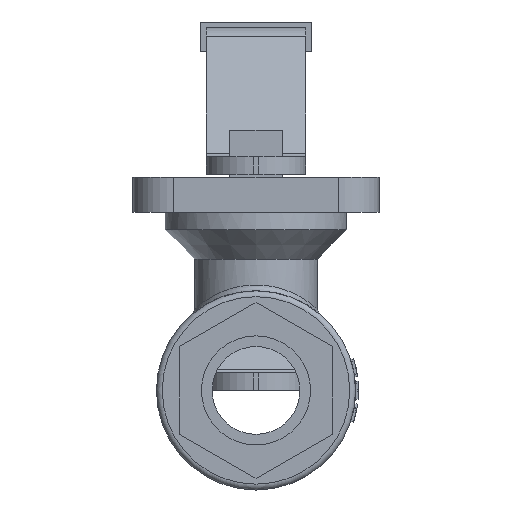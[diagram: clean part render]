
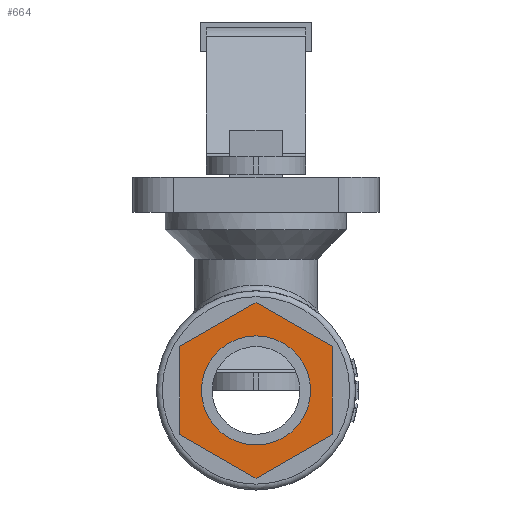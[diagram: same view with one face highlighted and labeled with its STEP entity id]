
A CAD part, left-side view. The second image highlights one B-rep face of the part: STEP entity #664.
In plain terms, the highlighted planar face has unit normal (-1, 0, 0).
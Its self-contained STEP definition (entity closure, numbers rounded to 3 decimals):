
#664 = ADVANCED_FACE( '', ( #1370, #1371 ), #1372, .T. );
#1370 = FACE_BOUND( '', #3943, .T. );
#1371 = FACE_OUTER_BOUND( '', #3944, .T. );
#1372 = PLANE( '', #3945 );
#3943 = EDGE_LOOP( '', ( #5675 ) );
#3944 = EDGE_LOOP( '', ( #5676, #5677, #5678, #5679, #5680, #5681 ) );
#3945 = AXIS2_PLACEMENT_3D( '', #5682, #5683, #5684 );
#5675 = ORIENTED_EDGE( '', *, *, #6150, .T. );
#5676 = ORIENTED_EDGE( '', *, *, #6055, .T. );
#5677 = ORIENTED_EDGE( '', *, *, #5854, .T. );
#5678 = ORIENTED_EDGE( '', *, *, #6383, .T. );
#5679 = ORIENTED_EDGE( '', *, *, #6192, .T. );
#5680 = ORIENTED_EDGE( '', *, *, #5968, .T. );
#5681 = ORIENTED_EDGE( '', *, *, #6351, .T. );
#5682 = CARTESIAN_POINT( '', ( -29., 0., 0. ) );
#5683 = DIRECTION( '', ( -1., 0., 0. ) );
#5684 = DIRECTION( '', ( 0., -1., 0. ) );
#5854 = EDGE_CURVE( '', #6690, #6691, #6692, .T. );
#5968 = EDGE_CURVE( '', #6875, #6876, #6877, .T. );
#6055 = EDGE_CURVE( '', #7016, #6690, #7017, .T. );
#6150 = EDGE_CURVE( '', #7165, #7165, #7166, .T. );
#6192 = EDGE_CURVE( '', #7218, #6875, #7219, .T. );
#6351 = EDGE_CURVE( '', #6876, #7016, #7417, .T. );
#6383 = EDGE_CURVE( '', #6691, #7218, #7455, .T. );
#6690 = VERTEX_POINT( '', #8853 );
#6691 = VERTEX_POINT( '', #8854 );
#6692 = LINE( '', #8855, #8856 );
#6875 = VERTEX_POINT( '', #9642 );
#6876 = VERTEX_POINT( '', #9643 );
#6877 = LINE( '', #9644, #9645 );
#7016 = VERTEX_POINT( '', #9967 );
#7017 = LINE( '', #9968, #9969 );
#7165 = VERTEX_POINT( '', #10392 );
#7166 = CIRCLE( '', #10393, 9.316 );
#7218 = VERTEX_POINT( '', #10588 );
#7219 = LINE( '', #10589, #10590 );
#7417 = LINE( '', #10985, #10986 );
#7455 = LINE( '', #11098, #11099 );
#8853 = CARTESIAN_POINT( '', ( -29., -13., 7.506 ) );
#8854 = CARTESIAN_POINT( '', ( -29., 0., 15.011 ) );
#8855 = CARTESIAN_POINT( '', ( -29., -13., 7.506 ) );
#8856 = VECTOR( '', #11269, 1000. );
#9642 = CARTESIAN_POINT( '', ( -29., 13., -7.506 ) );
#9643 = CARTESIAN_POINT( '', ( -29., 0., -15.011 ) );
#9644 = CARTESIAN_POINT( '', ( -29., 13., -7.506 ) );
#9645 = VECTOR( '', #11324, 1000. );
#9967 = CARTESIAN_POINT( '', ( -29., -13., -7.506 ) );
#9968 = CARTESIAN_POINT( '', ( -29., -13., -7.506 ) );
#9969 = VECTOR( '', #11433, 1000. );
#10392 = CARTESIAN_POINT( '', ( -29., 0., 9.316 ) );
#10393 = AXIS2_PLACEMENT_3D( '', #11481, #11482, #11483 );
#10588 = CARTESIAN_POINT( '', ( -29., 13., 7.506 ) );
#10589 = CARTESIAN_POINT( '', ( -29., 13., 7.506 ) );
#10590 = VECTOR( '', #11508, 1000. );
#10985 = CARTESIAN_POINT( '', ( -29., 0., -15.011 ) );
#10986 = VECTOR( '', #11578, 1000. );
#11098 = CARTESIAN_POINT( '', ( -29., 0., 15.011 ) );
#11099 = VECTOR( '', #11587, 1000. );
#11269 = DIRECTION( '', ( 0., 0.866, 0.5 ) );
#11324 = DIRECTION( '', ( 0., -0.866, -0.5 ) );
#11433 = DIRECTION( '', ( 0., 0., 1. ) );
#11481 = CARTESIAN_POINT( '', ( -29., 0., 0. ) );
#11482 = DIRECTION( '', ( 1., 0., 0. ) );
#11483 = DIRECTION( '', ( 0., 0., 1. ) );
#11508 = DIRECTION( '', ( 0., 0., -1. ) );
#11578 = DIRECTION( '', ( 0., -0.866, 0.5 ) );
#11587 = DIRECTION( '', ( 0., 0.866, -0.5 ) );
